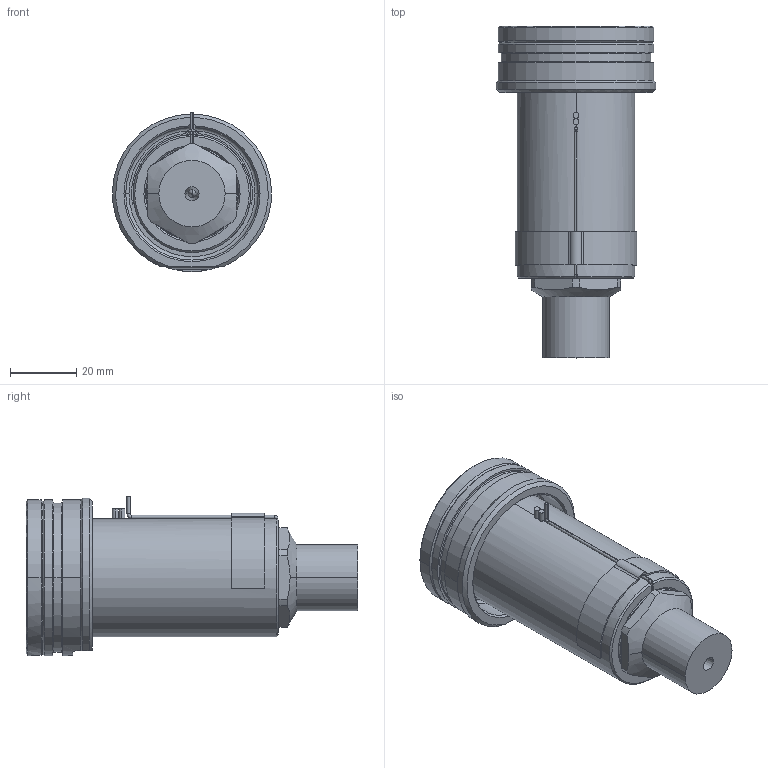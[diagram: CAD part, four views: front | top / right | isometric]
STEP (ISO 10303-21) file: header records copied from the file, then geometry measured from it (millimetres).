
FILE_DESCRIPTION((''),'2;1');
FILE_NAME('EO16_PG-FBE_STD_070_SW','2024-02-19T12:06:11',('sundharh'),(''),'CREO PARAMETRIC BY PTC INC, 2023154','CREO PARAMETRIC BY PTC INC, 2023154','');
FILE_SCHEMA(('CONFIG_CONTROL_DESIGN'));
Length unit declared in the file: millimetre
Products named in the file (1): EO16_PG-FBE_STD_070_SW
Bounding box: 47.97 x 100 x 48 mm (x, y, z)
Volume: 81692.3 mm3; surface area: 24832.1 mm2
Topology: 1 solids, 1 shells, 207 faces, 542 edges, 333 vertices
Faces by surface type: cylinder 81, plane 59, cone 43, torus 14, bspline 7, sphere 3
Entity records: 7441 total; most frequent: CARTESIAN_POINT 2249, DIRECTION 1149, ORIENTED_EDGE 1068, EDGE_CURVE 534, AXIS2_PLACEMENT_3D 479, VERTEX_POINT 333, CIRCLE 279, EDGE_LOOP 225
